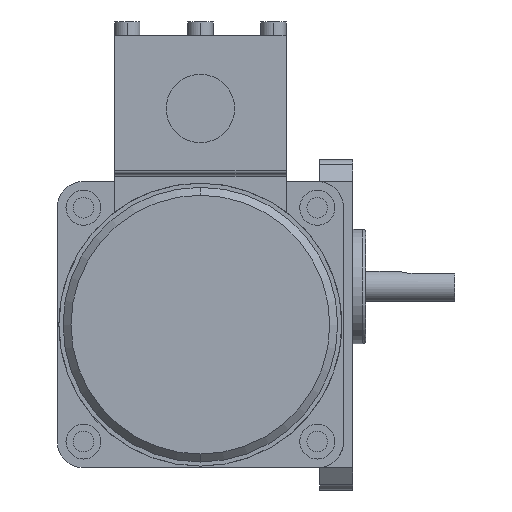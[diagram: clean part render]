
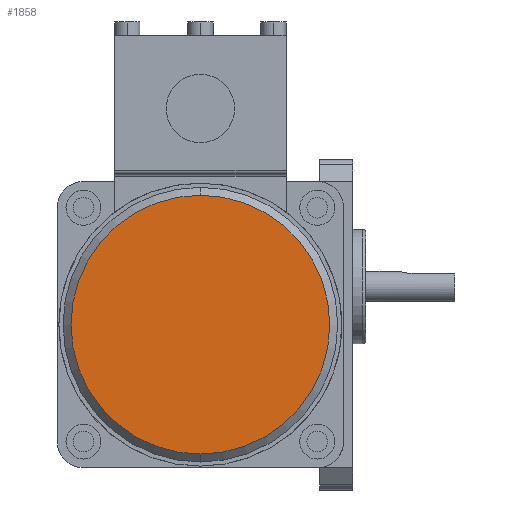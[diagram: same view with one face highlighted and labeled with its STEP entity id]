
A CAD part, left-side view. The second image highlights one B-rep face of the part: STEP entity #1858.
In plain terms, the highlighted planar face has unit normal (-1, 0, 0).
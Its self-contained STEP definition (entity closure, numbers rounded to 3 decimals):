
#1838=CARTESIAN_POINT('POINT139772',(-173.,48.,28.7));
#1839=VERTEX_POINT('VERTEX139772',#1838);
#1840=CARTESIAN_POINT('POINT139773',(-173.,48.,-52.7));
#1841=VERTEX_POINT('VERTEX139773',#1840);
#1842=CARTESIAN_POINT('POS235713',(-173.,48.,-12.));
#1843=DIRECTION('DIR356025',(1.,0.,0.));
#1844=DIRECTION('DIR356026',(0.,0.,1.));
#1845=AXIS2_PLACEMENT_3D('AXIS120313',#1842,#1843,#1844);
#1846=CIRCLE('ELLIPSE56290',#1845,40.7);
#1847=EDGE_CURVE('EDGE213490',#1839,#1841,#1846,.T.);
#1848=ORIENTED_EDGE('COEDGE426959',*,*,#1847,.F.);
#1849=EDGE_CURVE('EDGE213491',#1841,#1839,#1846,.T.);
#1850=ORIENTED_EDGE('COEDGE426960',*,*,#1849,.F.);
#1851=EDGE_LOOP('NONE',(#1848,#1850));
#1852=FACE_BOUND('LOOP1',#1851,.T.);
#1853=CARTESIAN_POINT('POS235714',(-173.,48.,
   8.35));
#1854=DIRECTION('DIR356027',(-1.,0.,0.));
#1855=DIRECTION('DIR356028',(0.,1.,0.));
#1856=AXIS2_PLACEMENT_3D('AXIS120314',#1853,#1854,#1855);
#1857=PLANE('PLANE38137',#1856);
#1858=ADVANCED_FACE('FACE87898',(#1852),#1857,.T.);
